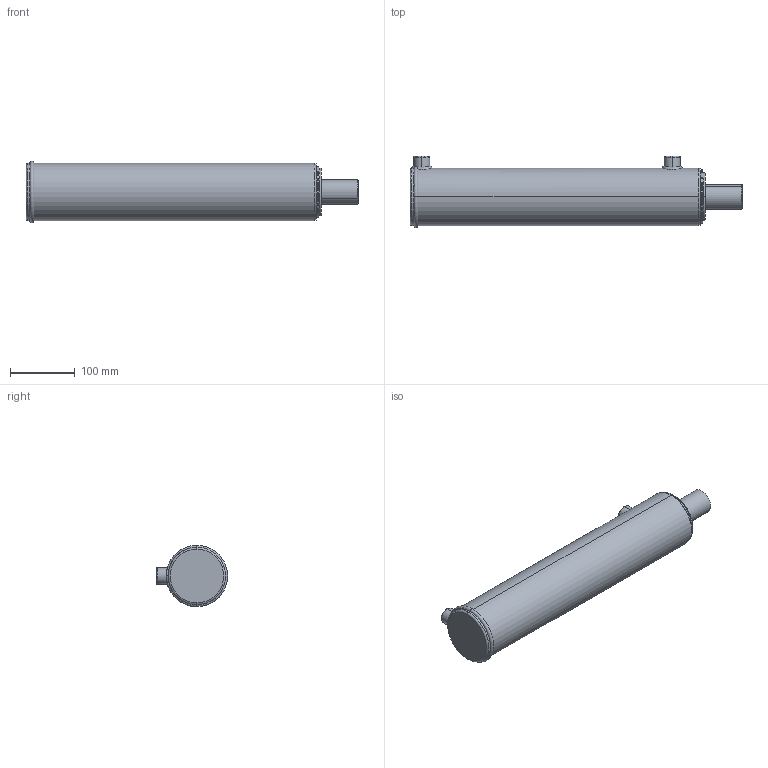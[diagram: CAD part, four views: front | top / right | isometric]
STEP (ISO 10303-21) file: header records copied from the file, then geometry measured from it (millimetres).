
FILE_DESCRIPTION (( 'STEP AP203' ), '1' );
FILE_NAME ('BL300150x355 (14).STEP', '2014-11-23T22:44:44', ( '' ), ( '' ), 'SwSTEP 2.0', 'SolidWorks 2014', '' );
FILE_SCHEMA (( 'CONFIG_CONTROL_DESIGN' ));
Length unit declared in the file: millimetre
Products named in the file (3): BL body 3_3x14; Spare_3x14; BL300150x355 (14)
Assembly tree (2 placements, depth 2):
  BL300150x355 (14)
    BL body 3_3x14
    Spare_3x14
Bounding box: 513 x 109.9 x 94.9 mm (x, y, z)
Volume: 3119862.9 mm3; surface area: 237806.8 mm2
Topology: 2 solids, 2 shells, 88 faces, 205 edges, 126 vertices
Faces by surface type: cylinder 32, plane 20, torus 17, bspline 11, cone 8
Entity records: 5992 total; most frequent: CARTESIAN_POINT 3745, DIRECTION 420, ORIENTED_EDGE 402, EDGE_CURVE 201, AXIS2_PLACEMENT_3D 181, VERTEX_POINT 126, EDGE_LOOP 101, CIRCLE 99
